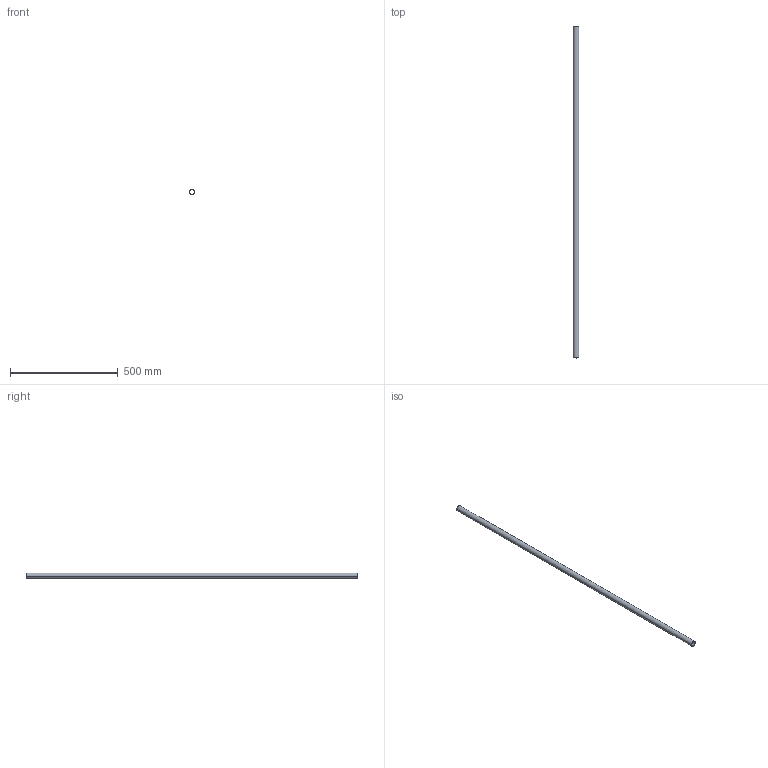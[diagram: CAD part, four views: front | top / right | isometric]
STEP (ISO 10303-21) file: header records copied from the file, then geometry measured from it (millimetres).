
FILE_DESCRIPTION (( 'STEP AP214' ), '1' );
FILE_NAME ('CCJ029-REP.312 - LISSE PLATEFORME INFERIEURE B1-C1.STEP', '2024-01-31T09:55:24', ( '' ), ( '' ), 'SwSTEP 2.0', 'SolidWorks 2021', '' );
FILE_SCHEMA (( 'AUTOMOTIVE_DESIGN' ));
Length unit declared in the file: millimetre
Products named in the file (1): CCJ029-REP.312 - LISSE PLATEFORME INFERIEURE B1-C1
Bounding box: 26.9 x 1541 x 26.9 mm (x, y, z)
Volume: 273914.8 mm3; surface area: 238542.3 mm2
Topology: 1 solids, 1 shells, 6 faces, 12 edges, 8 vertices
Faces by surface type: cylinder 4, plane 2
Entity records: 202 total; most frequent: DIRECTION 34, CARTESIAN_POINT 27, ORIENTED_EDGE 24, AXIS2_PLACEMENT_3D 15, EDGE_CURVE 12, CIRCLE 8, EDGE_LOOP 8, VERTEX_POINT 8
